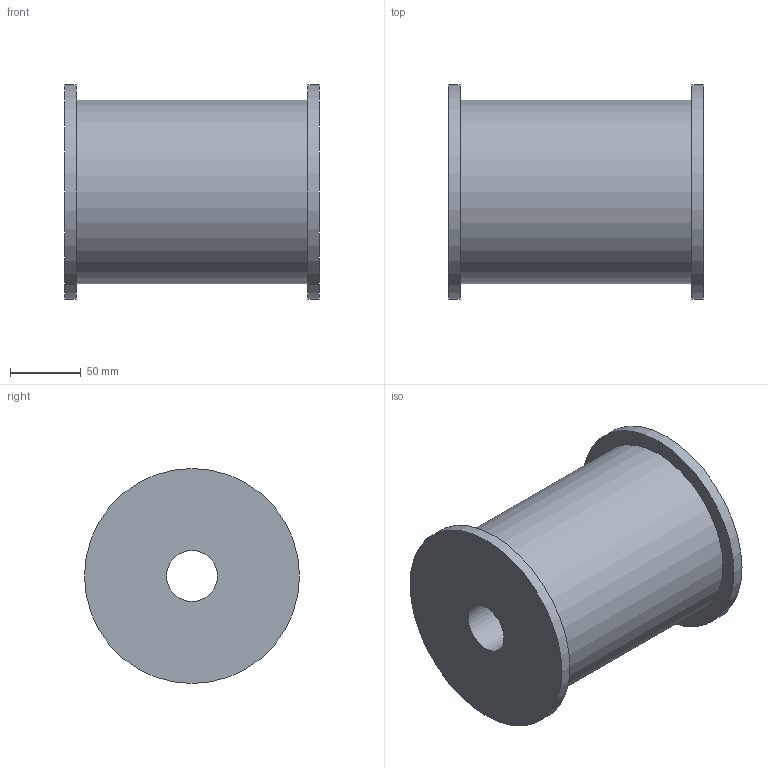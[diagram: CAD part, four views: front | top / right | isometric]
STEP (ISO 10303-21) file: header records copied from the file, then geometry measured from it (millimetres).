
FILE_DESCRIPTION(('Open CASCADE Model'),'2;1');
FILE_NAME('Open CASCADE Shape Model','2026-09-19T12:55:24',('Author'),( 'Open CASCADE'),'Open CASCADE STEP processor 7.9','Open CASCADE 7.9' ,'Unknown');
FILE_SCHEMA(('AUTOMOTIVE_DESIGN { 1 0 10303 214 1 1 1 1 }'));
Length unit declared in the file: millimetre
Products named in the file (1): Open CASCADE STEP translator 7.9 456
Bounding box: 180 x 152 x 152 mm (x, y, z)
Volume: 2283925.3 mm3; surface area: 138977.8 mm2
Topology: 1 solids, 1 shells, 8 faces, 12 edges, 8 vertices
Faces by surface type: cylinder 4, plane 4
Full cylindrical faces by diameter (mm): 36 x1, 130 x1, 152 x2
Entity records: 354 total; most frequent: DIRECTION 62, CARTESIAN_POINT 53, ORIENTED_EDGE 24, PCURVE 24, DEFINITIONAL_REPRESENTATION 24, LINE 20, VECTOR 20, AXIS2_PLACEMENT_3D 17
